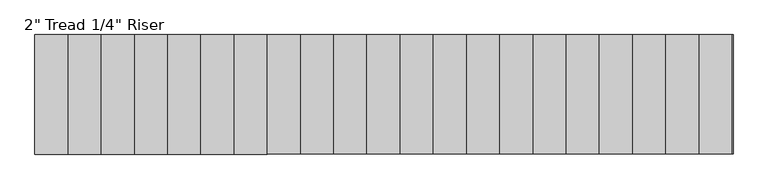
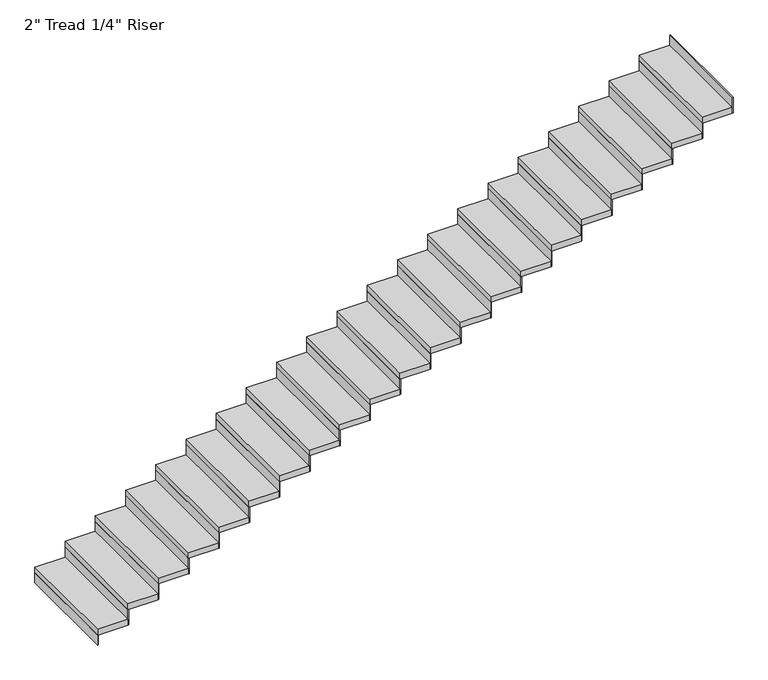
"""IFC4 building model written with IfcOpenShell, lengths in millimetres: stair flight geometry."""

from ifc_helpers import new_model, si_unit, frame, origin, origin_with_axes, place, context, project, spatial, polyline, outline, extrude, source, transform, mapped, element, save


def stair_flight_dd9f26f4(model_context):
    return source(origin(), model_context, "Body", "SweptSolid", [
        extrude(outline(polyline([(-12441.2873599, 50483.5873827), (-12447.6373599, 50483.5873827), (-12447.6373599, 51397.9873827), (-12441.2873599, 51397.9873827), (-12441.2873599, 50483.5873827)])), origin_with_axes(), (0.0, 0.0, 1.0), 87.7454545),
        extrude(outline(polyline([(-12193.6373599, 51397.9873827), (-12193.6373599, 50483.5873827), (-12447.6373599, 50483.5873827), (-12447.6373599, 51397.9873827), (-12193.6373599, 51397.9873827)])), frame((0.0, 0.0, 87.7454545), z_axis=(0.0, 0.0, 1.0), x_axis=(1.0, 0.0, 0.0)), (0.0, 0.0, 1.0), 50.8),
        extrude(outline(polyline([(-12187.2873599, 50483.5873827), (-12193.6373599, 50483.5873827), (-12193.6373599, 51397.9873827), (-12187.2873599, 51397.9873827), (-12187.2873599, 50483.5873827)])), frame((0.0, 0.0, 87.7454545), z_axis=(0.0, 0.0, 1.0), x_axis=(1.0, 0.0, 0.0)), (0.0, 0.0, 1.0), 138.5454545),
        extrude(outline(polyline([(-11939.6373599, 51397.9873827), (-11939.6373599, 50483.5873827), (-12193.6373599, 50483.5873827), (-12193.6373599, 51397.9873827), (-11939.6373599, 51397.9873827)])), frame((0.0, 0.0, 226.2909091), z_axis=(0.0, 0.0, 1.0), x_axis=(1.0, 0.0, 0.0)), (0.0, 0.0, 1.0), 50.8),
        extrude(outline(polyline([(-11933.2873599, 50483.5873827), (-11939.6373599, 50483.5873827), (-11939.6373599, 51397.9873827), (-11933.2873599, 51397.9873827), (-11933.2873599, 50483.5873827)])), frame((0.0, 0.0, 226.2909091), z_axis=(0.0, 0.0, 1.0), x_axis=(1.0, 0.0, 0.0)), (0.0, 0.0, 1.0), 138.5454545),
        extrude(outline(polyline([(-11685.6373599, 51397.9873827), (-11685.6373599, 50483.5873827), (-11939.6373599, 50483.5873827), (-11939.6373599, 51397.9873827), (-11685.6373599, 51397.9873827)])), frame((0.0, 0.0, 364.8363636), z_axis=(0.0, 0.0, 1.0), x_axis=(1.0, 0.0, 0.0)), (0.0, 0.0, 1.0), 50.8),
        extrude(outline(polyline([(-11679.2873599, 50483.5873827), (-11685.6373599, 50483.5873827), (-11685.6373599, 51397.9873827), (-11679.2873599, 51397.9873827), (-11679.2873599, 50483.5873827)])), frame((0.0, 0.0, 364.8363636), z_axis=(0.0, 0.0, 1.0), x_axis=(1.0, 0.0, 0.0)), (0.0, 0.0, 1.0), 138.5454545),
        extrude(outline(polyline([(-11431.6373599, 51397.9873827), (-11431.6373599, 50483.5873827), (-11685.6373599, 50483.5873827), (-11685.6373599, 51397.9873827), (-11431.6373599, 51397.9873827)])), frame((0.0, 0.0, 503.3818182), z_axis=(0.0, 0.0, 1.0), x_axis=(1.0, 0.0, 0.0)), (0.0, 0.0, 1.0), 50.8),
        extrude(outline(polyline([(-11425.2873599, 50483.5873827), (-11431.6373599, 50483.5873827), (-11431.6373599, 51397.9873827), (-11425.2873599, 51397.9873827), (-11425.2873599, 50483.5873827)])), frame((0.0, 0.0, 503.3818182), z_axis=(0.0, 0.0, 1.0), x_axis=(1.0, 0.0, 0.0)), (0.0, 0.0, 1.0), 138.5454545),
        extrude(outline(polyline([(-11177.6373599, 51397.9873827), (-11177.6373599, 50483.5873827), (-11431.6373599, 50483.5873827), (-11431.6373599, 51397.9873827), (-11177.6373599, 51397.9873827)])), frame((0.0, 0.0, 641.9272727), z_axis=(0.0, 0.0, 1.0), x_axis=(1.0, 0.0, 0.0)), (0.0, 0.0, 1.0), 50.8),
        extrude(outline(polyline([(-11171.2873599, 50483.5873827), (-11177.6373599, 50483.5873827), (-11177.6373599, 51397.9873827), (-11171.2873599, 51397.9873827), (-11171.2873599, 50483.5873827)])), frame((0.0, 0.0, 641.9272727), z_axis=(0.0, 0.0, 1.0), x_axis=(1.0, 0.0, 0.0)), (0.0, 0.0, 1.0), 138.5454545),
        extrude(outline(polyline([(-10923.6373599, 51397.9873827), (-10923.6373599, 50483.5873827), (-11177.6373599, 50483.5873827), (-11177.6373599, 51397.9873827), (-10923.6373599, 51397.9873827)])), frame((0.0, 0.0, 780.4727273), z_axis=(0.0, 0.0, 1.0), x_axis=(1.0, 0.0, 0.0)), (0.0, 0.0, 1.0), 50.8),
        extrude(outline(polyline([(-10917.2873599, 50483.5873827), (-10923.6373599, 50483.5873827), (-10923.6373599, 51397.9873827), (-10917.2873599, 51397.9873827), (-10917.2873599, 50483.5873827)])), frame((0.0, 0.0, 780.4727273), z_axis=(0.0, 0.0, 1.0), x_axis=(1.0, 0.0, 0.0)), (0.0, 0.0, 1.0), 138.5454545),
        extrude(outline(polyline([(-10669.6373599, 51397.9873827), (-10669.6373599, 50483.5873827), (-10923.6373599, 50483.5873827), (-10923.6373599, 51397.9873827), (-10669.6373599, 51397.9873827)])), frame((0.0, 0.0, 919.0181818), z_axis=(0.0, 0.0, 1.0), x_axis=(1.0, 0.0, 0.0)), (0.0, 0.0, 1.0), 50.8),
        extrude(outline(polyline([(-10663.2873599, 50483.5873827), (-10669.6373599, 50483.5873827), (-10669.6373599, 51397.9873827), (-10663.2873599, 51397.9873827), (-10663.2873599, 50483.5873827)])), frame((0.0, 0.0, 919.0181818), z_axis=(0.0, 0.0, 1.0), x_axis=(1.0, 0.0, 0.0)), (0.0, 0.0, 1.0), 138.5454545),
        extrude(outline(polyline([(-10415.6373599, 51397.9873827), (-10415.6373599, 50483.5873827), (-10669.6373599, 50483.5873827), (-10669.6373599, 51397.9873827), (-10415.6373599, 51397.9873827)])), frame((0.0, 0.0, 1057.5636364), z_axis=(0.0, 0.0, 1.0), x_axis=(1.0, 0.0, 0.0)), (0.0, 0.0, 1.0), 50.8),
        extrude(outline(polyline([(-10409.2873599, 50483.5873827), (-10415.6373599, 50483.5873827), (-10415.6373599, 51397.9873827), (-10409.2873599, 51397.9873827), (-10409.2873599, 50483.5873827)])), frame((0.0, 0.0, 1057.5636364), z_axis=(0.0, 0.0, 1.0), x_axis=(1.0, 0.0, 0.0)), (0.0, 0.0, 1.0), 138.5454545),
        extrude(outline(polyline([(-10161.6373599, 51397.9873827), (-10161.6373599, 50483.5873827), (-10415.6373599, 50483.5873827), (-10415.6373599, 51397.9873827), (-10161.6373599, 51397.9873827)])), frame((0.0, 0.0, 1196.1090909), z_axis=(0.0, 0.0, 1.0), x_axis=(1.0, 0.0, 0.0)), (0.0, 0.0, 1.0), 50.8),
        extrude(outline(polyline([(-10155.2873599, 50483.5873827), (-10161.6373599, 50483.5873827), (-10161.6373599, 51397.9873827), (-10155.2873599, 51397.9873827), (-10155.2873599, 50483.5873827)])), frame((0.0, 0.0, 1196.1090909), z_axis=(0.0, 0.0, 1.0), x_axis=(1.0, 0.0, 0.0)), (0.0, 0.0, 1.0), 138.5454545),
        extrude(outline(polyline([(-9907.6373599, 51397.9873827), (-9907.6373599, 50483.5873827), (-10161.6373599, 50483.5873827), (-10161.6373599, 51397.9873827), (-9907.6373599, 51397.9873827)])), frame((0.0, 0.0, 1334.6545455), z_axis=(0.0, 0.0, 1.0), x_axis=(1.0, 0.0, 0.0)), (0.0, 0.0, 1.0), 50.8),
        extrude(outline(polyline([(-9901.2873599, 50483.5873827), (-9907.6373599, 50483.5873827), (-9907.6373599, 51397.9873827), (-9901.2873599, 51397.9873827), (-9901.2873599, 50483.5873827)])), frame((0.0, 0.0, 1334.6545455), z_axis=(0.0, 0.0, 1.0), x_axis=(1.0, 0.0, 0.0)), (0.0, 0.0, 1.0), 138.5454545),
        extrude(outline(polyline([(-9653.6373599, 51397.9873827), (-9653.6373599, 50483.5873827), (-9907.6373599, 50483.5873827), (-9907.6373599, 51397.9873827), (-9653.6373599, 51397.9873827)])), frame((0.0, 0.0, 1473.2), z_axis=(0.0, 0.0, 1.0), x_axis=(1.0, 0.0, 0.0)), (0.0, 0.0, 1.0), 50.8),
        extrude(outline(polyline([(-9647.2873599, 50483.5873827), (-9653.6373599, 50483.5873827), (-9653.6373599, 51397.9873827), (-9647.2873599, 51397.9873827), (-9647.2873599, 50483.5873827)])), frame((0.0, 0.0, 1473.2), z_axis=(0.0, 0.0, 1.0), x_axis=(1.0, 0.0, 0.0)), (0.0, 0.0, 1.0), 138.5454545),
        extrude(outline(polyline([(-9399.6373599, 51397.9873827), (-9399.6373599, 50483.5873827), (-9653.6373599, 50483.5873827), (-9653.6373599, 51397.9873827), (-9399.6373599, 51397.9873827)])), frame((0.0, 0.0, 1611.7454545), z_axis=(0.0, 0.0, 1.0), x_axis=(1.0, 0.0, 0.0)), (0.0, 0.0, 1.0), 50.8),
        extrude(outline(polyline([(-9393.2873599, 50483.5873827), (-9399.6373599, 50483.5873827), (-9399.6373599, 51397.9873827), (-9393.2873599, 51397.9873827), (-9393.2873599, 50483.5873827)])), frame((0.0, 0.0, 1611.7454545), z_axis=(0.0, 0.0, 1.0), x_axis=(1.0, 0.0, 0.0)), (0.0, 0.0, 1.0), 138.5454545),
        extrude(outline(polyline([(-9145.6373599, 51397.9873827), (-9145.6373599, 50483.5873827), (-9399.6373599, 50483.5873827), (-9399.6373599, 51397.9873827), (-9145.6373599, 51397.9873827)])), frame((0.0, 0.0, 1750.2909091), z_axis=(0.0, 0.0, 1.0), x_axis=(1.0, 0.0, 0.0)), (0.0, 0.0, 1.0), 50.8),
        extrude(outline(polyline([(-9139.2873599, 50483.5873827), (-9145.6373599, 50483.5873827), (-9145.6373599, 51397.9873827), (-9139.2873599, 51397.9873827), (-9139.2873599, 50483.5873827)])), frame((0.0, 0.0, 1750.2909091), z_axis=(0.0, 0.0, 1.0), x_axis=(1.0, 0.0, 0.0)), (0.0, 0.0, 1.0), 138.5454545),
        extrude(outline(polyline([(-8891.6373599, 51397.9873827), (-8891.6373599, 50483.5873827), (-9145.6373599, 50483.5873827), (-9145.6373599, 51397.9873827), (-8891.6373599, 51397.9873827)])), frame((0.0, 0.0, 1888.8363636), z_axis=(0.0, 0.0, 1.0), x_axis=(1.0, 0.0, 0.0)), (0.0, 0.0, 1.0), 50.8),
        extrude(outline(polyline([(-8885.2873599, 50483.5873827), (-8891.6373599, 50483.5873827), (-8891.6373599, 51397.9873827), (-8885.2873599, 51397.9873827), (-8885.2873599, 50483.5873827)])), frame((0.0, 0.0, 1888.8363636), z_axis=(0.0, 0.0, 1.0), x_axis=(1.0, 0.0, 0.0)), (0.0, 0.0, 1.0), 138.5454545),
        extrude(outline(polyline([(-8637.6373599, 51397.9873827), (-8637.6373599, 50483.5873827), (-8891.6373599, 50483.5873827), (-8891.6373599, 51397.9873827), (-8637.6373599, 51397.9873827)])), frame((0.0, 0.0, 2027.3818182), z_axis=(0.0, 0.0, 1.0), x_axis=(1.0, 0.0, 0.0)), (0.0, 0.0, 1.0), 50.8),
        extrude(outline(polyline([(-8631.2873599, 50483.5873827), (-8637.6373599, 50483.5873827), (-8637.6373599, 51397.9873827), (-8631.2873599, 51397.9873827), (-8631.2873599, 50483.5873827)])), frame((0.0, 0.0, 2027.3818182), z_axis=(0.0, 0.0, 1.0), x_axis=(1.0, 0.0, 0.0)), (0.0, 0.0, 1.0), 138.5454545),
        extrude(outline(polyline([(-8383.6373599, 51397.9873827), (-8383.6373599, 50483.5873827), (-8637.6373599, 50483.5873827), (-8637.6373599, 51397.9873827), (-8383.6373599, 51397.9873827)])), frame((0.0, 0.0, 2165.9272727), z_axis=(0.0, 0.0, 1.0), x_axis=(1.0, 0.0, 0.0)), (0.0, 0.0, 1.0), 50.8),
        extrude(outline(polyline([(-8377.2873599, 50483.5873827), (-8383.6373599, 50483.5873827), (-8383.6373599, 51397.9873827), (-8377.2873599, 51397.9873827), (-8377.2873599, 50483.5873827)])), frame((0.0, 0.0, 2165.9272727), z_axis=(0.0, 0.0, 1.0), x_axis=(1.0, 0.0, 0.0)), (0.0, 0.0, 1.0), 138.5454545),
        extrude(outline(polyline([(-8129.6373599, 51397.9873827), (-8129.6373599, 50483.5873827), (-8383.6373599, 50483.5873827), (-8383.6373599, 51397.9873827), (-8129.6373599, 51397.9873827)])), frame((0.0, 0.0, 2304.4727273), z_axis=(0.0, 0.0, 1.0), x_axis=(1.0, 0.0, 0.0)), (0.0, 0.0, 1.0), 50.8),
        extrude(outline(polyline([(-8123.2873599, 50483.5873827), (-8129.6373599, 50483.5873827), (-8129.6373599, 51397.9873827), (-8123.2873599, 51397.9873827), (-8123.2873599, 50483.5873827)])), frame((0.0, 0.0, 2304.4727273), z_axis=(0.0, 0.0, 1.0), x_axis=(1.0, 0.0, 0.0)), (0.0, 0.0, 1.0), 138.5454545),
        extrude(outline(polyline([(-7875.6373599, 51397.9873827), (-7875.6373599, 50483.5873827), (-8129.6373599, 50483.5873827), (-8129.6373599, 51397.9873827), (-7875.6373599, 51397.9873827)])), frame((0.0, 0.0, 2443.0181818), z_axis=(0.0, 0.0, 1.0), x_axis=(1.0, 0.0, 0.0)), (0.0, 0.0, 1.0), 50.8),
        extrude(outline(polyline([(-7869.2873599, 50483.5873827), (-7875.6373599, 50483.5873827), (-7875.6373599, 51397.9873827), (-7869.2873599, 51397.9873827), (-7869.2873599, 50483.5873827)])), frame((0.0, 0.0, 2443.0181818), z_axis=(0.0, 0.0, 1.0), x_axis=(1.0, 0.0, 0.0)), (0.0, 0.0, 1.0), 138.5454545),
        extrude(outline(polyline([(-7621.6373599, 51397.9873827), (-7621.6373599, 50483.5873827), (-7875.6373599, 50483.5873827), (-7875.6373599, 51397.9873827), (-7621.6373599, 51397.9873827)])), frame((0.0, 0.0, 2581.5636364), z_axis=(0.0, 0.0, 1.0), x_axis=(1.0, 0.0, 0.0)), (0.0, 0.0, 1.0), 50.8),
        extrude(outline(polyline([(-7615.2873599, 50483.5873827), (-7621.6373599, 50483.5873827), (-7621.6373599, 51397.9873827), (-7615.2873599, 51397.9873827), (-7615.2873599, 50483.5873827)])), frame((0.0, 0.0, 2581.5636364), z_axis=(0.0, 0.0, 1.0), x_axis=(1.0, 0.0, 0.0)), (0.0, 0.0, 1.0), 138.5454545),
        extrude(outline(polyline([(-7367.6373599, 51397.9873827), (-7367.6373599, 50483.5873827), (-7621.6373599, 50483.5873827), (-7621.6373599, 51397.9873827), (-7367.6373599, 51397.9873827)])), frame((0.0, 0.0, 2720.1090909), z_axis=(0.0, 0.0, 1.0), x_axis=(1.0, 0.0, 0.0)), (0.0, 0.0, 1.0), 50.8),
        extrude(outline(polyline([(-7361.2873599, 50483.5873827), (-7367.6373599, 50483.5873827), (-7367.6373599, 51397.9873827), (-7361.2873599, 51397.9873827), (-7361.2873599, 50483.5873827)])), frame((0.0, 0.0, 2720.1090909), z_axis=(0.0, 0.0, 1.0), x_axis=(1.0, 0.0, 0.0)), (0.0, 0.0, 1.0), 138.5454545),
        extrude(outline(polyline([(-7107.2873599, 50483.5873827), (-7113.6373599, 50483.5873827), (-7113.6373599, 51397.9873827), (-7107.2873599, 51397.9873827), (-7107.2873599, 50483.5873827)])), frame((0.0, 0.0, 2858.6545455), z_axis=(0.0, 0.0, 1.0), x_axis=(1.0, 0.0, 0.0)), (0.0, 0.0, 1.0), 138.5454545),
        extrude(outline(polyline([(-7113.6373599, 51397.9873827), (-7113.6373599, 50483.5873827), (-7367.6373599, 50483.5873827), (-7367.6373599, 51397.9873827), (-7113.6373599, 51397.9873827)])), frame((0.0, 0.0, 2858.6545455), z_axis=(0.0, 0.0, 1.0), x_axis=(1.0, 0.0, 0.0)), (0.0, 0.0, 1.0), 50.8),
    ])


if __name__ == "__main__":
    model = new_model("IFC4")
    model_context = context("Model", 3, world=origin())
    ifc_project = project(units=[si_unit("LENGTHUNIT", "METRE", prefix="MILLI")], contexts=[model_context])
    site = spatial("IfcSite", under=ifc_project)
    building = spatial("IfcBuilding", under=site)
    placement = place(None, origin())
    stair_flight_shape = stair_flight_dd9f26f4(model_context)
    element("IfcStairFlight", 1, ObjectType="2\" Tread 1/4\" Riser", at=placement, inside=building, context=model_context, shape_type="MappedRepresentation", body=[
        mapped(stair_flight_shape, transform((0.0, 0.0, 0.0), x_axis=(1.0, 0.0, 0.0), y_axis=(0.0, 1.0, 0.0), z_axis=(0.0, 0.0, 1.0))),
    ])
    save(model, "model.ifc")
